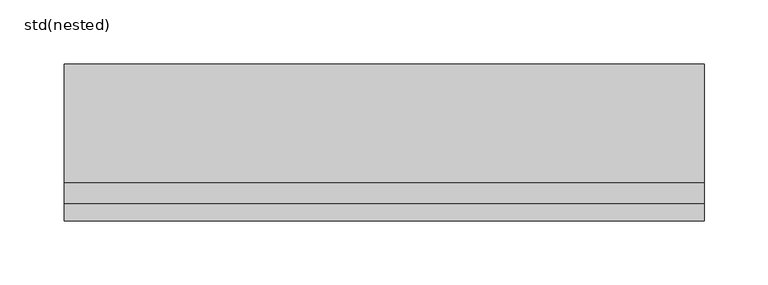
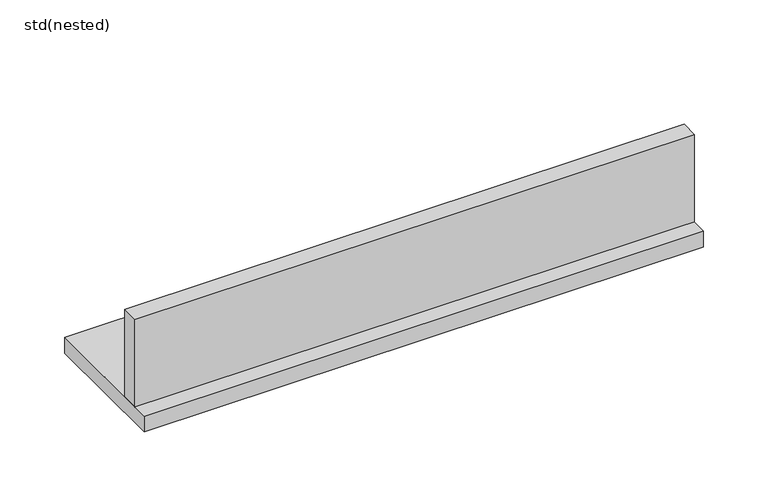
"""IFC4 building model written with IfcOpenShell, lengths in millimetres: sanitary terminal geometry, ZZZ_do not use_PF_ST_SlabDrain_H100_gratings_USA_ACO : std(nested)."""

from ifc_helpers import new_model, si_unit, frame, origin, place, context, project, spatial, polyline, outline, extrude, source, transform, mapped, element, save


def std_nested_66d19c61(model_context):
    return source(origin(), model_context, "Body", "SweptSolid", [
        extrude(outline(polyline([(250.0, 61.5), (250.0, -61.5), (-250.0, -61.5), (-250.0, 61.5), (250.0, 61.5)])), frame((0.0, 0.0, -98.0), z_axis=(0.0, 0.0, 1.0), x_axis=(1.0, 0.0, 0.0)), (0.0, 0.0, 1.0), 15.0),
        extrude(outline(polyline([(250.0, -47.5), (-250.0, -47.5), (-250.0, -31.5), (250.0, -31.5), (250.0, -47.5)])), frame((0.0, 0.0, -83.0), z_axis=(0.0, 0.0, 1.0), x_axis=(1.0, 0.0, 0.0)), (0.0, 0.0, 1.0), 83.0),
    ])


if __name__ == "__main__":
    model = new_model("IFC4")
    model_context = context("Model", 3, world=origin())
    ifc_project = project(units=[si_unit("LENGTHUNIT", "METRE", prefix="MILLI")], contexts=[model_context])
    site = spatial("IfcSite", under=ifc_project)
    building = spatial("IfcBuilding", under=site)
    placement = place(None, origin())
    std_nested_shape = std_nested_66d19c61(model_context)
    element("IfcSanitaryTerminal", 1, ObjectType="ZZZ_do not use_PF_ST_SlabDrain_H100_gratings_USA_ACO : std(nested)", at=placement, inside=building, context=model_context, shape_type="MappedRepresentation", body=[
        mapped(std_nested_shape, transform((0.0, 0.0, 0.0), x_axis=(1.0, 0.0, 0.0), y_axis=(0.0, 1.0, 0.0), z_axis=(0.0, 0.0, 1.0))),
    ])
    save(model, "model.ifc")
